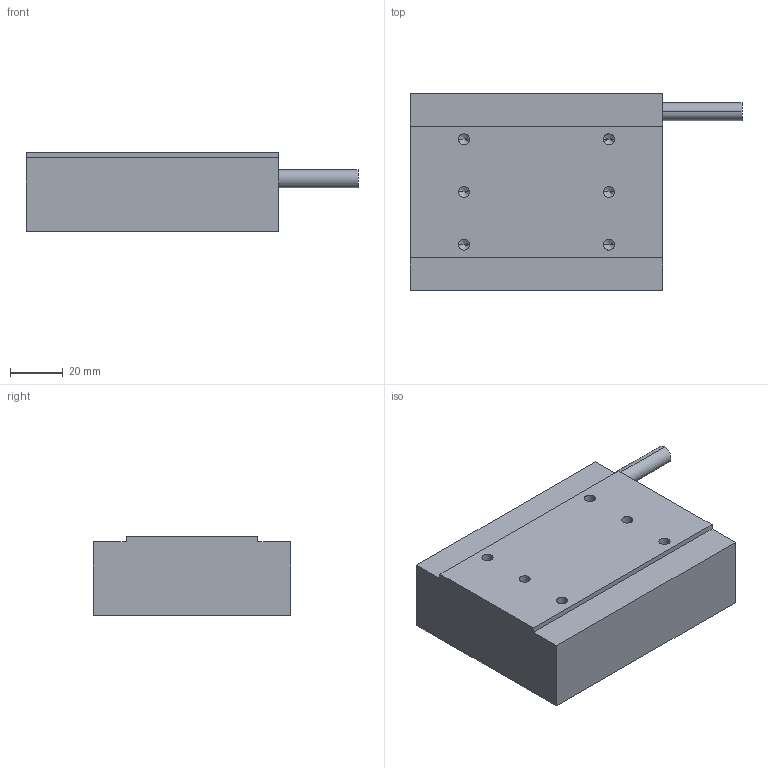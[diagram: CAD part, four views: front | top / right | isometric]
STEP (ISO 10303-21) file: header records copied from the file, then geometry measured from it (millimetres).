
FILE_DESCRIPTION (( 'STEP AP214' ), '1' );
FILE_NAME ('FLT-75-96.STEP', '2022-04-13T09:11:16', ( 'Microsoft' ), ( 'Microsoft' ), 'SwSTEP 2.0', 'SolidWorks 2016', '' );
FILE_SCHEMA (( 'AUTOMOTIVE_DESIGN' ));
Length unit declared in the file: millimetre
Products named in the file (1): FLT-75-96
Bounding box: 126 x 75 x 30 mm (x, y, z)
Volume: 211719.9 mm3; surface area: 25774.8 mm2
Topology: 1 solids, 1 shells, 45 faces, 110 edges, 60 vertices
Faces by surface type: cylinder 18, cone 16, plane 11
Entity records: 1410 total; most frequent: DIRECTION 222, CARTESIAN_POINT 200, ORIENTED_EDGE 188, EDGE_CURVE 94, AXIS2_PLACEMENT_3D 82, VERTEX_POINT 60, LINE 58, VECTOR 58
